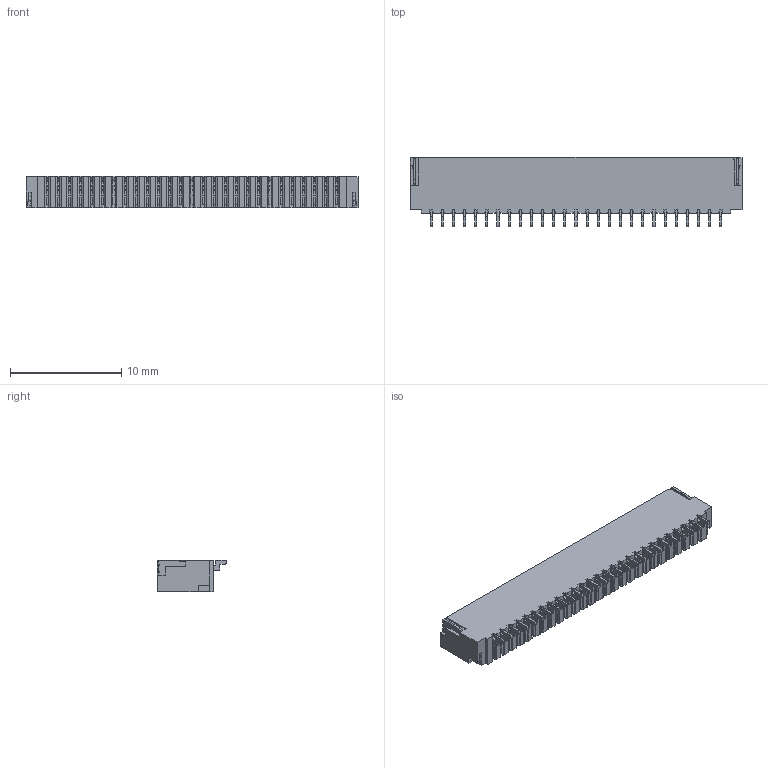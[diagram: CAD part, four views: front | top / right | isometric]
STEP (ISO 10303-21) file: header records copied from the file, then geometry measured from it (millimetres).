
FILE_DESCRIPTION((''),'2;1');
FILE_NAME('S-50646-024XX-XXX','2022-07-21T',('d37621'),(''),'CREO PARAMETRIC BY PTC INC, 2014500','CREO PARAMETRIC BY PTC INC, 2014500','');
FILE_SCHEMA(('CONFIG_CONTROL_DESIGN'));
Length unit declared in the file: millimetre
Products named in the file (1): S-50646-024XX-XXX
Bounding box: 29.8 x 6.2 x 2.85 mm (x, y, z)
Volume: 372.9 mm3; surface area: 823.3 mm2
Topology: 1 solids, 1 shells, 1329 faces, 4032 edges, 2760 vertices
Faces by surface type: plane 914, cylinder 415
Entity records: 45226 total; most frequent: CARTESIAN_POINT 8168, ORIENTED_EDGE 7832, DIRECTION 7580, EDGE_CURVE 3916, VECTOR 3036, LINE 3036, VERTEX_POINT 2644, AXIS2_PLACEMENT_3D 2272
